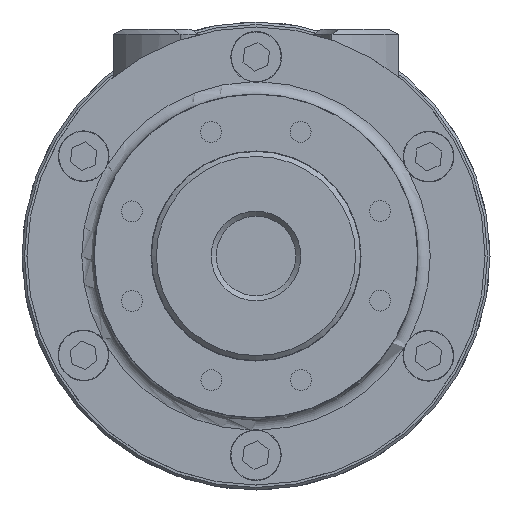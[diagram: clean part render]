
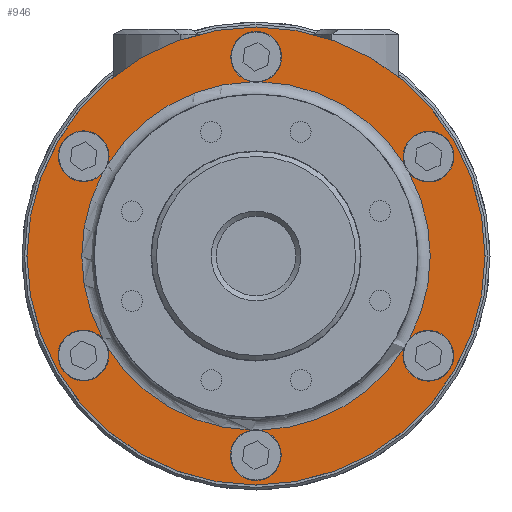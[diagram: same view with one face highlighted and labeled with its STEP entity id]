
A CAD part, left-side view. The second image highlights one B-rep face of the part: STEP entity #946.
In plain terms, the highlighted planar face has unit normal (-1, 0, 0).
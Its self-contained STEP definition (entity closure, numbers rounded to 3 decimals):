
#946 = ADVANCED_FACE( '', ( #1752, #1753 ), #1754, .F. );
#1752 = FACE_OUTER_BOUND( '', #2918, .T. );
#1753 = FACE_BOUND( '', #2919, .T. );
#1754 = PLANE( '', #2920 );
#2918 = EDGE_LOOP( '', ( #4620 ) );
#2919 = EDGE_LOOP( '', ( #4621, #4622, #4623, #4624, #4625, #4626, #4627, #4628, #4629, #4630, #4631, #4632 ) );
#2920 = AXIS2_PLACEMENT_3D( '', #4633, #4634, #4635 );
#4620 = ORIENTED_EDGE( '', *, *, #7228, .T. );
#4621 = ORIENTED_EDGE( '', *, *, #7216, .T. );
#4622 = ORIENTED_EDGE( '', *, *, #7227, .T. );
#4623 = ORIENTED_EDGE( '', *, *, #7224, .T. );
#4624 = ORIENTED_EDGE( '', *, *, #7236, .T. );
#4625 = ORIENTED_EDGE( '', *, *, #7223, .T. );
#4626 = ORIENTED_EDGE( '', *, *, #7167, .T. );
#4627 = ORIENTED_EDGE( '', *, *, #7222, .T. );
#4628 = ORIENTED_EDGE( '', *, *, #7209, .T. );
#4629 = ORIENTED_EDGE( '', *, *, #7220, .T. );
#4630 = ORIENTED_EDGE( '', *, *, #7204, .T. );
#4631 = ORIENTED_EDGE( '', *, *, #7218, .T. );
#4632 = ORIENTED_EDGE( '', *, *, #7235, .T. );
#4633 = CARTESIAN_POINT( '', ( -22., 46., 0. ) );
#4634 = DIRECTION( '', ( 1., 0., 0. ) );
#4635 = DIRECTION( '', ( 0., 1., 0. ) );
#7167 = EDGE_CURVE( '', #8157, #8156, #8160, .T. );
#7204 = EDGE_CURVE( '', #8220, #8219, #8222, .T. );
#7209 = EDGE_CURVE( '', #8230, #8229, #8232, .T. );
#7216 = EDGE_CURVE( '', #8242, #8055, #8243, .T. );
#7218 = EDGE_CURVE( '', #8219, #8244, #8246, .T. );
#7220 = EDGE_CURVE( '', #8229, #8220, #8248, .T. );
#7222 = EDGE_CURVE( '', #8156, #8230, #8250, .T. );
#7223 = EDGE_CURVE( '', #8177, #8157, #8251, .T. );
#7224 = EDGE_CURVE( '', #8054, #8178, #8252, .T. );
#7227 = EDGE_CURVE( '', #8055, #8054, #8255, .T. );
#7228 = EDGE_CURVE( '', #8256, #8256, #8257, .F. );
#7235 = EDGE_CURVE( '', #8244, #8242, #8268, .T. );
#7236 = EDGE_CURVE( '', #8178, #8177, #8269, .T. );
#8054 = VERTEX_POINT( '', #9462 );
#8055 = VERTEX_POINT( '', #9463 );
#8156 = VERTEX_POINT( '', #9600 );
#8157 = VERTEX_POINT( '', #9601 );
#8160 = CIRCLE( '', #9604, 5.1 );
#8177 = VERTEX_POINT( '', #9636 );
#8178 = VERTEX_POINT( '', #9637 );
#8219 = VERTEX_POINT( '', #9685 );
#8220 = VERTEX_POINT( '', #9686 );
#8222 = CIRCLE( '', #9688, 5.1 );
#8229 = VERTEX_POINT( '', #9695 );
#8230 = VERTEX_POINT( '', #9696 );
#8232 = CIRCLE( '', #9698, 5.1 );
#8242 = VERTEX_POINT( '', #9711 );
#8243 = CIRCLE( '', #9712, 35. );
#8244 = VERTEX_POINT( '', #9713 );
#8246 = CIRCLE( '', #9715, 35. );
#8248 = CIRCLE( '', #9717, 35. );
#8250 = CIRCLE( '', #9719, 35. );
#8251 = CIRCLE( '', #9720, 35. );
#8252 = CIRCLE( '', #9721, 35. );
#8255 = CIRCLE( '', #9726, 5.1 );
#8256 = VERTEX_POINT( '', #9727 );
#8257 = CIRCLE( '', #9728, 46. );
#8268 = CIRCLE( '', #9740, 5.1 );
#8269 = CIRCLE( '', #9741, 5.1 );
#9462 = CARTESIAN_POINT( '', ( -22., 29.83, 18.308 ) );
#9463 = CARTESIAN_POINT( '', ( -22., 30.77, 16.68 ) );
#9600 = CARTESIAN_POINT( '', ( -22., -30.77, 16.68 ) );
#9601 = CARTESIAN_POINT( '', ( -22., -29.83, 18.308 ) );
#9604 = AXIS2_PLACEMENT_3D( '', #11695, #11696, #11697 );
#9636 = CARTESIAN_POINT( '', ( -22., -0.94, 34.987 ) );
#9637 = CARTESIAN_POINT( '', ( -22., 0.94, 34.987 ) );
#9685 = CARTESIAN_POINT( '', ( -22., 0.94, -34.987 ) );
#9686 = CARTESIAN_POINT( '', ( -22., -0.94, -34.987 ) );
#9688 = AXIS2_PLACEMENT_3D( '', #11783, #11784, #11785 );
#9695 = CARTESIAN_POINT( '', ( -22., -29.83, -18.308 ) );
#9696 = CARTESIAN_POINT( '', ( -22., -30.77, -16.68 ) );
#9698 = AXIS2_PLACEMENT_3D( '', #11798, #11799, #11800 );
#9711 = CARTESIAN_POINT( '', ( -22., 30.77, -16.68 ) );
#9712 = AXIS2_PLACEMENT_3D( '', #11816, #11817, #11818 );
#9713 = CARTESIAN_POINT( '', ( -22., 29.83, -18.308 ) );
#9715 = AXIS2_PLACEMENT_3D( '', #11822, #11823, #11824 );
#9717 = AXIS2_PLACEMENT_3D( '', #11828, #11829, #11830 );
#9719 = AXIS2_PLACEMENT_3D( '', #11834, #11835, #11836 );
#9720 = AXIS2_PLACEMENT_3D( '', #11837, #11838, #11839 );
#9721 = AXIS2_PLACEMENT_3D( '', #11840, #11841, #11842 );
#9726 = AXIS2_PLACEMENT_3D( '', #11845, #11846, #11847 );
#9727 = CARTESIAN_POINT( '', ( -22., 0., -46. ) );
#9728 = AXIS2_PLACEMENT_3D( '', #11848, #11849, #11850 );
#9740 = AXIS2_PLACEMENT_3D( '', #11867, #11868, #11869 );
#9741 = AXIS2_PLACEMENT_3D( '', #11870, #11871, #11872 );
#11695 = CARTESIAN_POINT( '', ( -22., -34.641, 20. ) );
#11696 = DIRECTION( '', ( 1., 0., 0. ) );
#11697 = DIRECTION( '', ( 0., 0., -1. ) );
#11783 = CARTESIAN_POINT( '', ( -22., 0., -40. ) );
#11784 = DIRECTION( '', ( 1., 0., 0. ) );
#11785 = DIRECTION( '', ( 0., 0., -1. ) );
#11798 = CARTESIAN_POINT( '', ( -22., -34.641, -20. ) );
#11799 = DIRECTION( '', ( 1., 0., 0. ) );
#11800 = DIRECTION( '', ( 0., 0., -1. ) );
#11816 = CARTESIAN_POINT( '', ( -22., 0., 0. ) );
#11817 = DIRECTION( '', ( 1., 0., 0. ) );
#11818 = DIRECTION( '', ( 0., 0., -1. ) );
#11822 = CARTESIAN_POINT( '', ( -22., 0., 0. ) );
#11823 = DIRECTION( '', ( 1., 0., 0. ) );
#11824 = DIRECTION( '', ( 0., 0., -1. ) );
#11828 = CARTESIAN_POINT( '', ( -22., 0., 0. ) );
#11829 = DIRECTION( '', ( 1., 0., 0. ) );
#11830 = DIRECTION( '', ( 0., 0., -1. ) );
#11834 = CARTESIAN_POINT( '', ( -22., 0., 0. ) );
#11835 = DIRECTION( '', ( 1., 0., 0. ) );
#11836 = DIRECTION( '', ( 0., 0., -1. ) );
#11837 = CARTESIAN_POINT( '', ( -22., 0., 0. ) );
#11838 = DIRECTION( '', ( 1., 0., 0. ) );
#11839 = DIRECTION( '', ( 0., 0., -1. ) );
#11840 = CARTESIAN_POINT( '', ( -22., 0., 0. ) );
#11841 = DIRECTION( '', ( 1., 0., 0. ) );
#11842 = DIRECTION( '', ( 0., 0., -1. ) );
#11845 = CARTESIAN_POINT( '', ( -22., 34.641, 20. ) );
#11846 = DIRECTION( '', ( 1., 0., 0. ) );
#11847 = DIRECTION( '', ( 0., 0., -1. ) );
#11848 = CARTESIAN_POINT( '', ( -22., 0., 0. ) );
#11849 = DIRECTION( '', ( 1., 0., 0. ) );
#11850 = DIRECTION( '', ( 0., 0., -1. ) );
#11867 = CARTESIAN_POINT( '', ( -22., 34.641, -20. ) );
#11868 = DIRECTION( '', ( 1., 0., 0. ) );
#11869 = DIRECTION( '', ( 0., 0., -1. ) );
#11870 = CARTESIAN_POINT( '', ( -22., 0., 40. ) );
#11871 = DIRECTION( '', ( 1., 0., 0. ) );
#11872 = DIRECTION( '', ( 0., 0., -1. ) );
